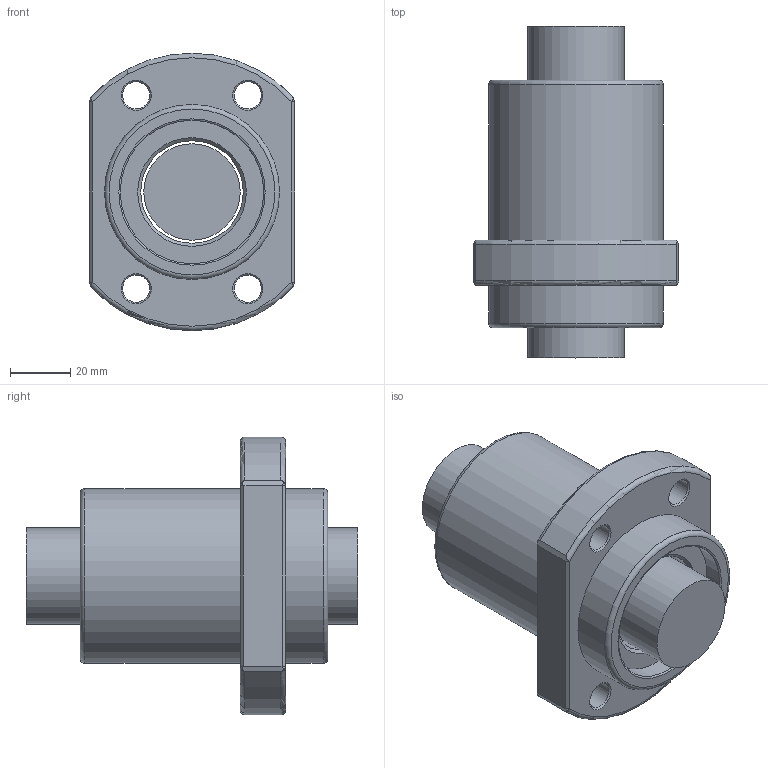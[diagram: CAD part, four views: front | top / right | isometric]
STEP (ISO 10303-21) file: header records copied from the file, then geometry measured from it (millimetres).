
FILE_DESCRIPTION(/* description */ (''),/* implementation_level */ '2;1');
FILE_NAME(/* name */ '3232.prt.step',/* time_stamp */ '2008-12-05T09:31:54+08:00',/* author */ (''),/* organization */ (''),/* preprocessor_version */ 'ST-DEVELOPER v11',/* originating_system */ 'SIEMENS UGS NX 6.0',/* authorisation */ '');
FILE_SCHEMA (('AUTOMOTIVE_DESIGN { 1 0 10303 214 1 1 1 1 }'));
Length unit declared in the file: millimetre
Products named in the file (1): 3232
Bounding box: 68 x 110 x 92 mm (x, y, z)
Volume: 259879.4 mm3; surface area: 48085.4 mm2
Topology: 2 solids, 2 shells, 56 faces, 130 edges, 82 vertices
Faces by surface type: plane 18, cylinder 12, cone 10, torus 8, bspline 8
Full cylindrical faces by diameter (mm): 9 x4, 31.95 x1, 34 x1, 47.5 x2, 58 x2
Entity records: 1742 total; most frequent: CARTESIAN_POINT 605, ORIENTED_EDGE 204, DIRECTION 202, EDGE_CURVE 102, EDGE_LOOP 94, AXIS2_PLACEMENT_3D 91, VERTEX_POINT 78, FACE_BOUND 68
